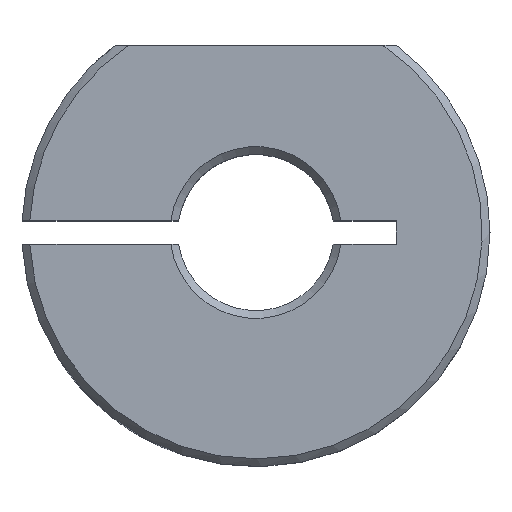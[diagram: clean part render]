
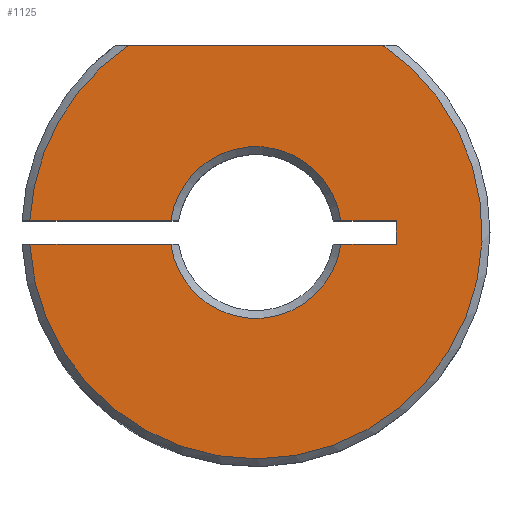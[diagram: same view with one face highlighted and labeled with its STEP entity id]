
A CAD part, top view. The second image highlights one B-rep face of the part: STEP entity #1125.
In plain terms, the highlighted planar face has unit normal (0, 0, 1).
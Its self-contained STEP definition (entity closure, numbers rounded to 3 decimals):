
#26 = VECTOR ( 'NONE', #984, 1000. ) ;
#47 = CARTESIAN_POINT ( 'NONE',  ( 0., 12., 4. ) ) ;
#51 = CARTESIAN_POINT ( 'NONE',  ( 0., 0., 4. ) ) ;
#53 = CIRCLE ( 'NONE', #929, 14.5 ) ;
#55 = VERTEX_POINT ( 'NONE', #274 ) ;
#107 = DIRECTION ( 'NONE',  ( -1., 0., 0. ) ) ;
#114 = EDGE_CURVE ( 'NONE', #1421, #55, #257, .T. ) ;
#126 = DIRECTION ( 'NONE',  ( 1., 0., 0. ) ) ;
#129 = PLANE ( 'NONE',  #1266 ) ;
#162 = CARTESIAN_POINT ( 'NONE',  ( -5.449, 0.75, 4. ) ) ;
#172 = DIRECTION ( 'NONE',  ( 0., 0., -1. ) ) ;
#201 = ORIENTED_EDGE ( 'NONE', *, *, #394, .T. ) ;
#203 = VERTEX_POINT ( 'NONE', #766 ) ;
#210 = CARTESIAN_POINT ( 'NONE',  ( 8.139, 12., 4. ) ) ;
#255 = CARTESIAN_POINT ( 'NONE',  ( 0., -0.75, 4. ) ) ;
#257 = CIRCLE ( 'NONE', #1395, 14.5 ) ;
#274 = CARTESIAN_POINT ( 'NONE',  ( -14.481, 0.75, 4. ) ) ;
#298 = ORIENTED_EDGE ( 'NONE', *, *, #405, .T. ) ;
#310 = CARTESIAN_POINT ( 'NONE',  ( -8.139, 12., 4. ) ) ;
#353 = VERTEX_POINT ( 'NONE', #162 ) ;
#360 = CIRCLE ( 'NONE', #1151, 5.5 ) ;
#369 = EDGE_CURVE ( 'NONE', #203, #1414, #53, .T. ) ;
#374 = VERTEX_POINT ( 'NONE', #1190 ) ;
#375 = CARTESIAN_POINT ( 'NONE',  ( 0., 0.75, 4. ) ) ;
#391 = VERTEX_POINT ( 'NONE', #508 ) ;
#394 = EDGE_CURVE ( 'NONE', #1414, #1421, #1178, .T. ) ;
#395 = VECTOR ( 'NONE', #1081, 1000. ) ;
#398 = LINE ( 'NONE', #255, #925 ) ;
#405 = EDGE_CURVE ( 'NONE', #391, #1359, #360, .T. ) ;
#406 = CARTESIAN_POINT ( 'NONE',  ( 9., -0.75, 4. ) ) ;
#430 = CARTESIAN_POINT ( 'NONE',  ( -5.449, -0.75, 4. ) ) ;
#448 = ORIENTED_EDGE ( 'NONE', *, *, #827, .T. ) ;
#490 = VERTEX_POINT ( 'NONE', #1116 ) ;
#504 = VECTOR ( 'NONE', #107, 1000. ) ;
#508 = CARTESIAN_POINT ( 'NONE',  ( 5.449, -0.75, 4. ) ) ;
#520 = VECTOR ( 'NONE', #998, 1000. ) ;
#550 = ORIENTED_EDGE ( 'NONE', *, *, #1308, .F. ) ;
#580 = ORIENTED_EDGE ( 'NONE', *, *, #114, .T. ) ;
#596 = DIRECTION ( 'NONE',  ( 0., 0., -1. ) ) ;
#611 = CIRCLE ( 'NONE', #794, 5.5 ) ;
#635 = CARTESIAN_POINT ( 'NONE',  ( 0., 0., 4. ) ) ;
#656 = CARTESIAN_POINT ( 'NONE',  ( 0., 0.75, 4. ) ) ;
#689 = ORIENTED_EDGE ( 'NONE', *, *, #1354, .T. ) ;
#695 = CARTESIAN_POINT ( 'NONE',  ( 5.449, 0.75, 4. ) ) ;
#766 = CARTESIAN_POINT ( 'NONE',  ( -14.481, -0.75, 4. ) ) ;
#793 = DIRECTION ( 'NONE',  ( 0., 1., 0. ) ) ;
#794 = AXIS2_PLACEMENT_3D ( 'NONE', #1170, #596, #1389 ) ;
#805 = FACE_OUTER_BOUND ( 'NONE', #1442, .T. ) ;
#827 = EDGE_CURVE ( 'NONE', #353, #1450, #611, .T. ) ;
#843 = EDGE_CURVE ( 'NONE', #374, #391, #398, .T. ) ;
#865 = LINE ( 'NONE', #375, #520 ) ;
#878 = EDGE_CURVE ( 'NONE', #1450, #490, #865, .T. ) ;
#888 = LINE ( 'NONE', #1235, #504 ) ;
#902 = EDGE_CURVE ( 'NONE', #1359, #203, #888, .T. ) ;
#925 = VECTOR ( 'NONE', #1054, 1000. ) ;
#929 = AXIS2_PLACEMENT_3D ( 'NONE', #1415, #980, #1299 ) ;
#938 = CARTESIAN_POINT ( 'NONE',  ( 0., 14.5, 4. ) ) ;
#966 = ORIENTED_EDGE ( 'NONE', *, *, #902, .T. ) ;
#980 = DIRECTION ( 'NONE',  ( 0., 0., 1. ) ) ;
#984 = DIRECTION ( 'NONE',  ( 0., 1., 0. ) ) ;
#998 = DIRECTION ( 'NONE',  ( 1., 0., 0. ) ) ;
#1036 = DIRECTION ( 'NONE',  ( 0., 0., 1. ) ) ;
#1054 = DIRECTION ( 'NONE',  ( -1., 0., 0. ) ) ;
#1071 = ORIENTED_EDGE ( 'NONE', *, *, #843, .T. ) ;
#1081 = DIRECTION ( 'NONE',  ( -1., 0., 0. ) ) ;
#1085 = DIRECTION ( 'NONE',  ( 1., 0., 0. ) ) ;
#1116 = CARTESIAN_POINT ( 'NONE',  ( 9., 0.75, 4. ) ) ;
#1121 = LINE ( 'NONE', #406, #26 ) ;
#1125 = ADVANCED_FACE ( 'NONE', ( #805 ), #129, .T. ) ;
#1151 = AXIS2_PLACEMENT_3D ( 'NONE', #51, #172, #1085 ) ;
#1170 = CARTESIAN_POINT ( 'NONE',  ( 0., 0., 4. ) ) ;
#1178 = LINE ( 'NONE', #47, #395 ) ;
#1190 = CARTESIAN_POINT ( 'NONE',  ( 9., -0.75, 4. ) ) ;
#1200 = LINE ( 'NONE', #656, #1274 ) ;
#1235 = CARTESIAN_POINT ( 'NONE',  ( 0., -0.75, 4. ) ) ;
#1244 = ORIENTED_EDGE ( 'NONE', *, *, #878, .T. ) ;
#1266 = AXIS2_PLACEMENT_3D ( 'NONE', #938, #1036, #126 ) ;
#1274 = VECTOR ( 'NONE', #1437, 1000. ) ;
#1299 = DIRECTION ( 'NONE',  ( 0., 1., 0. ) ) ;
#1308 = EDGE_CURVE ( 'NONE', #374, #490, #1121, .T. ) ;
#1344 = ORIENTED_EDGE ( 'NONE', *, *, #369, .T. ) ;
#1354 = EDGE_CURVE ( 'NONE', #55, #353, #1200, .T. ) ;
#1359 = VERTEX_POINT ( 'NONE', #430 ) ;
#1389 = DIRECTION ( 'NONE',  ( 1., 0., 0. ) ) ;
#1395 = AXIS2_PLACEMENT_3D ( 'NONE', #635, #1431, #793 ) ;
#1414 = VERTEX_POINT ( 'NONE', #210 ) ;
#1415 = CARTESIAN_POINT ( 'NONE',  ( 0., 0., 4. ) ) ;
#1421 = VERTEX_POINT ( 'NONE', #310 ) ;
#1431 = DIRECTION ( 'NONE',  ( 0., 0., 1. ) ) ;
#1437 = DIRECTION ( 'NONE',  ( 1., 0., 0. ) ) ;
#1442 = EDGE_LOOP ( 'NONE', ( #298, #966, #1344, #201, #580, #689, #448, #1244, #550, #1071 ) ) ;
#1450 = VERTEX_POINT ( 'NONE', #695 ) ;
